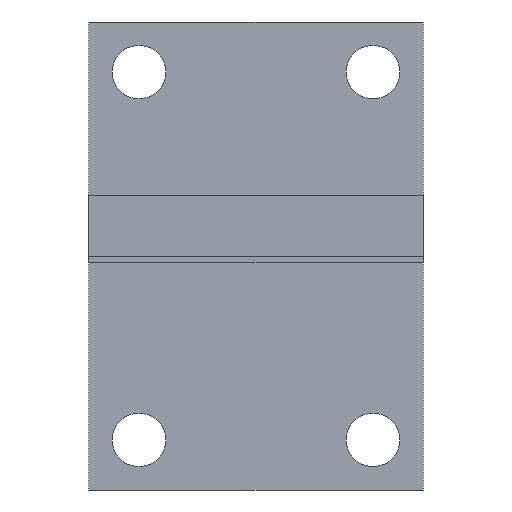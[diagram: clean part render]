
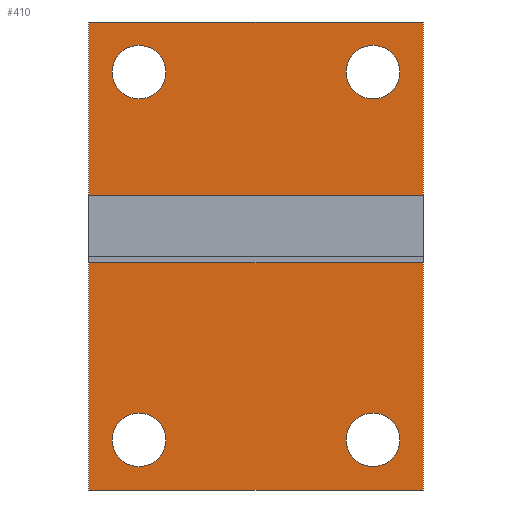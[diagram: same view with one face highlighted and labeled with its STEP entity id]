
A CAD part, left-side view. The second image highlights one B-rep face of the part: STEP entity #410.
In plain terms, the highlighted planar face has unit normal (-1, 0, 0) as drawn and (0, 0, 1) by its records, which use the part's own axes.
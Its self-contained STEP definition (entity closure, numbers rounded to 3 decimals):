
#43=LINE('',#657,#73);
#47=LINE('',#665,#77);
#50=LINE('',#671,#80);
#53=LINE('',#676,#83);
#73=VECTOR('',#546,50.);
#77=VECTOR('',#552,70.);
#80=VECTOR('',#557,50.);
#83=VECTOR('',#562,70.);
#98=PLANE('',#454);
#122=FACE_BOUND('',#186,.T.);
#123=FACE_BOUND('',#187,.T.);
#124=FACE_BOUND('',#188,.T.);
#125=FACE_BOUND('',#189,.T.);
#126=FACE_BOUND('',#190,.T.);
#186=EDGE_LOOP('',(#373));
#187=EDGE_LOOP('',(#374));
#188=EDGE_LOOP('',(#375));
#189=EDGE_LOOP('',(#376));
#190=EDGE_LOOP('',(#377,#378,#379,#380));
#200=CIRCLE('',#439,4.);
#202=CIRCLE('',#442,4.);
#204=CIRCLE('',#445,4.);
#206=CIRCLE('',#448,4.);
#228=VERTEX_POINT('',#637);
#230=VERTEX_POINT('',#642);
#232=VERTEX_POINT('',#647);
#234=VERTEX_POINT('',#652);
#235=VERTEX_POINT('',#655);
#236=VERTEX_POINT('',#656);
#239=VERTEX_POINT('',#664);
#241=VERTEX_POINT('',#670);
#270=EDGE_CURVE('',#228,#228,#200,.T.);
#272=EDGE_CURVE('',#230,#230,#202,.T.);
#274=EDGE_CURVE('',#232,#232,#204,.T.);
#276=EDGE_CURVE('',#234,#234,#206,.T.);
#277=EDGE_CURVE('',#235,#236,#43,.T.);
#281=EDGE_CURVE('',#236,#239,#47,.T.);
#284=EDGE_CURVE('',#239,#241,#50,.T.);
#287=EDGE_CURVE('',#241,#235,#53,.T.);
#373=ORIENTED_EDGE('',*,*,#270,.T.);
#374=ORIENTED_EDGE('',*,*,#272,.T.);
#375=ORIENTED_EDGE('',*,*,#274,.T.);
#376=ORIENTED_EDGE('',*,*,#276,.T.);
#377=ORIENTED_EDGE('',*,*,#277,.F.);
#378=ORIENTED_EDGE('',*,*,#287,.F.);
#379=ORIENTED_EDGE('',*,*,#284,.F.);
#380=ORIENTED_EDGE('',*,*,#281,.F.);
#410=ADVANCED_FACE('',(#122,#123,#124,#125,#126),#98,.T.);
#439=AXIS2_PLACEMENT_3D('',#638,#524,#525);
#442=AXIS2_PLACEMENT_3D('',#643,#530,#531);
#445=AXIS2_PLACEMENT_3D('',#648,#536,#537);
#448=AXIS2_PLACEMENT_3D('',#653,#542,#543);
#454=AXIS2_PLACEMENT_3D('',#679,#566,#567);
#524=DIRECTION('center_axis',(0.,0.,-1.));
#525=DIRECTION('ref_axis',(1.,0.,0.));
#530=DIRECTION('center_axis',(0.,0.,-1.));
#531=DIRECTION('ref_axis',(1.,0.,0.));
#536=DIRECTION('center_axis',(0.,0.,-1.));
#537=DIRECTION('ref_axis',(1.,0.,0.));
#542=DIRECTION('center_axis',(0.,0.,-1.));
#543=DIRECTION('ref_axis',(1.,0.,0.));
#546=DIRECTION('',(0.,1.,0.));
#552=DIRECTION('',(1.,0.,0.));
#557=DIRECTION('',(0.,-1.,0.));
#562=DIRECTION('',(-1.,0.,0.));
#566=DIRECTION('center_axis',(0.,0.,1.));
#567=DIRECTION('ref_axis',(1.,0.,0.));
#637=CARTESIAN_POINT('',(31.5,17.5,9.));
#638=CARTESIAN_POINT('Origin',(27.5,17.5,9.));
#642=CARTESIAN_POINT('',(-23.5,17.5,9.));
#643=CARTESIAN_POINT('Origin',(-27.5,17.5,9.));
#647=CARTESIAN_POINT('',(31.5,-17.5,9.));
#648=CARTESIAN_POINT('Origin',(27.5,-17.5,9.));
#652=CARTESIAN_POINT('',(-23.5,-17.5,9.));
#653=CARTESIAN_POINT('Origin',(-27.5,-17.5,9.));
#655=CARTESIAN_POINT('',(-35.,-25.,9.));
#656=CARTESIAN_POINT('',(-35.,25.,9.));
#657=CARTESIAN_POINT('',(-35.,25.,9.));
#664=CARTESIAN_POINT('',(35.,25.,9.));
#665=CARTESIAN_POINT('',(35.,25.,9.));
#670=CARTESIAN_POINT('',(35.,-25.,9.));
#671=CARTESIAN_POINT('',(35.,-25.,9.));
#676=CARTESIAN_POINT('',(-35.,-25.,9.));
#679=CARTESIAN_POINT('Origin',(0.,0.,
9.));
